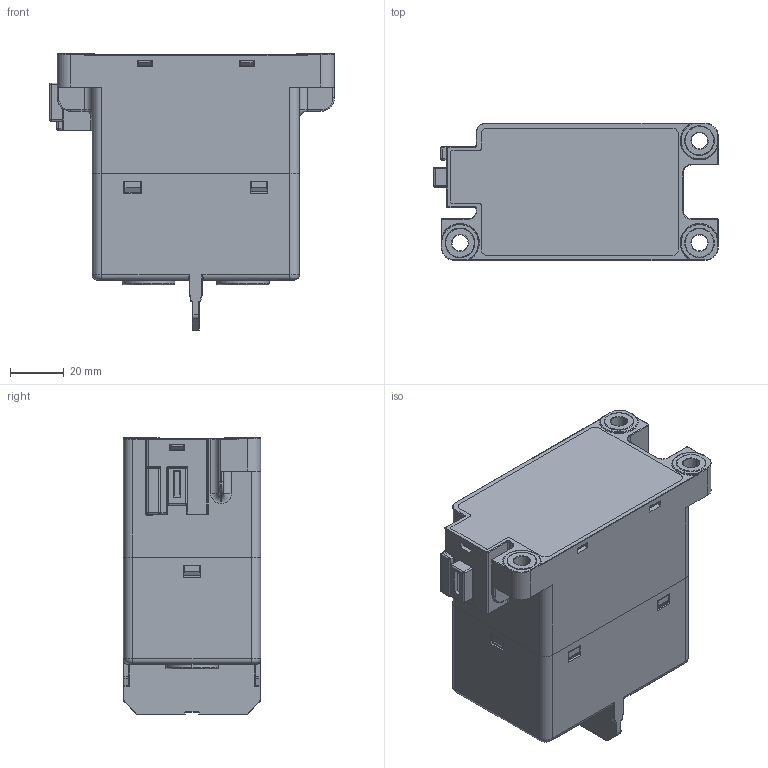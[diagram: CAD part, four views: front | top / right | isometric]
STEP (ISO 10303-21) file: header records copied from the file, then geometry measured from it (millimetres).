
FILE_DESCRIPTION (( 'STEP AP214' ), '1' );
FILE_NAME ('CHPV-S350B.STEP', '2022-08-16T10:02:35', ( '' ), ( '' ), 'SwSTEP 2.0', 'SolidWorks 2016', '' );
FILE_SCHEMA (( 'AUTOMOTIVE_DESIGN' ));
Length unit declared in the file: millimetre
Products named in the file (1): CHPV-S350B
Bounding box: 105.8 x 51 x 103 mm (x, y, z)
Volume: 72831.3 mm3; surface area: 87066.4 mm2
Topology: 14 solids, 14 shells, 3742 faces, 9139 edges, 5300 vertices
Faces by surface type: cylinder 1551, plane 891, torus 778, bspline 298, sphere 155, cone 69
Entity records: 169407 total; most frequent: CARTESIAN_POINT 42983, DIRECTION 18220, ORIENTED_EDGE 17928, EDGE_CURVE 8964, AXIS2_PLACEMENT_3D 7138, VERTEX_POINT 5292, LINE 3944, VECTOR 3944
